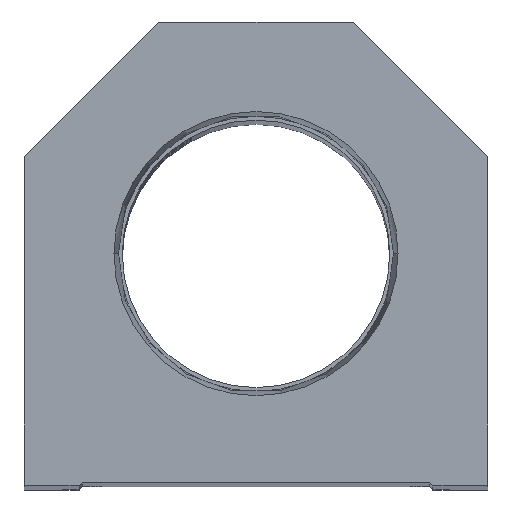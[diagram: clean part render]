
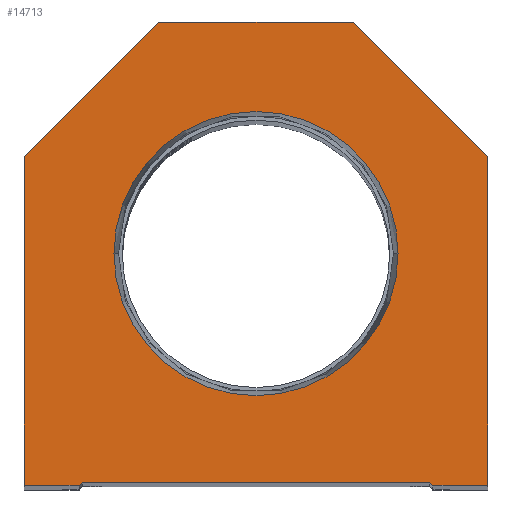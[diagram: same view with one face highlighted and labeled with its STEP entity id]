
A CAD part, top view. The second image highlights one B-rep face of the part: STEP entity #14713.
In plain terms, the highlighted planar face has unit normal (0, 0, 1).
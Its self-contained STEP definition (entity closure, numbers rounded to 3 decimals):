
#17 = DIRECTION ( 'NONE',  ( 0., 1., 0. ) ) ;
#54 = CIRCLE ( 'NONE', #2592, 23.374 ) ;
#148 = EDGE_CURVE ( 'NONE', #5944, #13929, #9811, .T. ) ;
#304 = CARTESIAN_POINT ( 'NONE',  ( 28.6, 0.5, 0. ) ) ;
#433 = VERTEX_POINT ( 'NONE', #9486 ) ;
#541 = LINE ( 'NONE', #15951, #18617 ) ;
#635 = DIRECTION ( 'NONE',  ( 0., -1., 0. ) ) ;
#769 = DIRECTION ( 'NONE',  ( -0.707, -0.707, 0. ) ) ;
#888 = CARTESIAN_POINT ( 'NONE',  ( -28.6, 0.5, 0. ) ) ;
#944 = CARTESIAN_POINT ( 'NONE',  ( -28.6, 0., 0. ) ) ;
#1747 = AXIS2_PLACEMENT_3D ( 'NONE', #3551, #10825, #15593 ) ;
#1782 = VECTOR ( 'NONE', #14135, 1000. ) ;
#2142 = LINE ( 'NONE', #6600, #11290 ) ;
#2444 = CARTESIAN_POINT ( 'NONE',  ( 23.374, 38.1, 0. ) ) ;
#2499 = EDGE_CURVE ( 'NONE', #15094, #433, #10286, .T. ) ;
#2592 = AXIS2_PLACEMENT_3D ( 'NONE', #13172, #17621, #14841 ) ;
#2712 = CARTESIAN_POINT ( 'NONE',  ( -29.1, 0., 0. ) ) ;
#2980 = CARTESIAN_POINT ( 'NONE',  ( -38.1, 0., 0. ) ) ;
#3006 = LINE ( 'NONE', #13657, #13051 ) ;
#3330 = EDGE_LOOP ( 'NONE', ( #16854, #3382 ) ) ;
#3382 = ORIENTED_EDGE ( 'NONE', *, *, #17074, .F. ) ;
#3473 = LINE ( 'NONE', #11133, #13892 ) ;
#3551 = CARTESIAN_POINT ( 'NONE',  ( 0., 38.1, 0. ) ) ;
#4100 = CARTESIAN_POINT ( 'NONE',  ( 28.6, 0., 0. ) ) ;
#4644 = CARTESIAN_POINT ( 'NONE',  ( 38.1, 54.1, 0. ) ) ;
#4668 = VECTOR ( 'NONE', #19182, 1000. ) ;
#5195 = DIRECTION ( 'NONE',  ( -0.707, 0.707, 0. ) ) ;
#5325 = EDGE_CURVE ( 'NONE', #5528, #5944, #17990, .T. ) ;
#5528 = VERTEX_POINT ( 'NONE', #14230 ) ;
#5554 = DIRECTION ( 'NONE',  ( 0., 0., 1. ) ) ;
#5656 = PLANE ( 'NONE',  #19278 ) ;
#5944 = VERTEX_POINT ( 'NONE', #9622 ) ;
#6066 = VECTOR ( 'NONE', #16705, 1000. ) ;
#6600 = CARTESIAN_POINT ( 'NONE',  ( 38.1, 54.1, 0. ) ) ;
#6666 = DIRECTION ( 'NONE',  ( 0.707, 0.707, 0. ) ) ;
#6685 = CARTESIAN_POINT ( 'NONE',  ( 14.55, 14.55, 0. ) ) ;
#7035 = VECTOR ( 'NONE', #769, 1000. ) ;
#7091 = VERTEX_POINT ( 'NONE', #4644 ) ;
#7111 = VERTEX_POINT ( 'NONE', #2980 ) ;
#7149 = FACE_OUTER_BOUND ( 'NONE', #7730, .T. ) ;
#7475 = CARTESIAN_POINT ( 'NONE',  ( 16., 76.2, 0. ) ) ;
#7529 = EDGE_CURVE ( 'NONE', #7091, #5528, #2142, .T. ) ;
#7546 = ORIENTED_EDGE ( 'NONE', *, *, #16021, .T. ) ;
#7682 = EDGE_CURVE ( 'NONE', #15359, #18532, #9468, .T. ) ;
#7730 = EDGE_LOOP ( 'NONE', ( #17650, #8850, #11614, #15673, #17628, #7546, #10260, #8110, #11831, #14148 ) ) ;
#7759 = LINE ( 'NONE', #10645, #6066 ) ;
#8110 = ORIENTED_EDGE ( 'NONE', *, *, #5325, .T. ) ;
#8850 = ORIENTED_EDGE ( 'NONE', *, *, #13762, .T. ) ;
#8893 = DIRECTION ( 'NONE',  ( 1., 0., 0. ) ) ;
#9468 = LINE ( 'NONE', #6685, #1782 ) ;
#9474 = EDGE_CURVE ( 'NONE', #18532, #15605, #18105, .T. ) ;
#9486 = CARTESIAN_POINT ( 'NONE',  ( -23.374, 38.1, 0. ) ) ;
#9622 = CARTESIAN_POINT ( 'NONE',  ( -16., 76.2, 0. ) ) ;
#9811 = LINE ( 'NONE', #11419, #7035 ) ;
#10260 = ORIENTED_EDGE ( 'NONE', *, *, #7529, .T. ) ;
#10286 = CIRCLE ( 'NONE', #1747, 23.374 ) ;
#10645 = CARTESIAN_POINT ( 'NONE',  ( -28.6, 0.5, 0. ) ) ;
#10825 = DIRECTION ( 'NONE',  ( 0., 0., 1. ) ) ;
#11133 = CARTESIAN_POINT ( 'NONE',  ( -14.55, 14.55, 0. ) ) ;
#11290 = VECTOR ( 'NONE', #5195, 1000. ) ;
#11419 = CARTESIAN_POINT ( 'NONE',  ( -38.1, 54.1, 0. ) ) ;
#11614 = ORIENTED_EDGE ( 'NONE', *, *, #18012, .T. ) ;
#11831 = ORIENTED_EDGE ( 'NONE', *, *, #148, .T. ) ;
#12377 = EDGE_CURVE ( 'NONE', #13929, #7111, #541, .T. ) ;
#12697 = LINE ( 'NONE', #944, #16844 ) ;
#12954 = DIRECTION ( 'NONE',  ( 1., 0., 0. ) ) ;
#13051 = VECTOR ( 'NONE', #17, 1000. ) ;
#13172 = CARTESIAN_POINT ( 'NONE',  ( 0., 38.1, 0. ) ) ;
#13314 = VERTEX_POINT ( 'NONE', #2712 ) ;
#13657 = CARTESIAN_POINT ( 'NONE',  ( 38.1, 0., 0. ) ) ;
#13762 = EDGE_CURVE ( 'NONE', #13314, #14751, #3473, .T. ) ;
#13892 = VECTOR ( 'NONE', #6666, 1000. ) ;
#13929 = VERTEX_POINT ( 'NONE', #19349 ) ;
#14135 = DIRECTION ( 'NONE',  ( 0.707, -0.707, 0. ) ) ;
#14148 = ORIENTED_EDGE ( 'NONE', *, *, #12377, .T. ) ;
#14230 = CARTESIAN_POINT ( 'NONE',  ( 16., 76.2, 0. ) ) ;
#14247 = CARTESIAN_POINT ( 'NONE',  ( 29.1, 0., 0. ) ) ;
#14545 = DIRECTION ( 'NONE',  ( 1., 0., 0. ) ) ;
#14713 = ADVANCED_FACE ( 'NONE', ( #16107, #7149 ), #5656, .T. ) ;
#14751 = VERTEX_POINT ( 'NONE', #888 ) ;
#14841 = DIRECTION ( 'NONE',  ( 1., 0., 0. ) ) ;
#15094 = VERTEX_POINT ( 'NONE', #2444 ) ;
#15359 = VERTEX_POINT ( 'NONE', #304 ) ;
#15593 = DIRECTION ( 'NONE',  ( 1., 0., 0. ) ) ;
#15605 = VERTEX_POINT ( 'NONE', #17088 ) ;
#15673 = ORIENTED_EDGE ( 'NONE', *, *, #7682, .T. ) ;
#15951 = CARTESIAN_POINT ( 'NONE',  ( -38.1, 0., 0. ) ) ;
#16021 = EDGE_CURVE ( 'NONE', #15605, #7091, #3006, .T. ) ;
#16107 = FACE_BOUND ( 'NONE', #3330, .T. ) ;
#16705 = DIRECTION ( 'NONE',  ( 1., 0., 0. ) ) ;
#16844 = VECTOR ( 'NONE', #14545, 1000. ) ;
#16854 = ORIENTED_EDGE ( 'NONE', *, *, #2499, .F. ) ;
#17074 = EDGE_CURVE ( 'NONE', #433, #15094, #54, .T. ) ;
#17088 = CARTESIAN_POINT ( 'NONE',  ( 38.1, 0., 0. ) ) ;
#17504 = CARTESIAN_POINT ( 'NONE',  ( 0., 0., 0. ) ) ;
#17613 = EDGE_CURVE ( 'NONE', #7111, #13314, #12697, .T. ) ;
#17621 = DIRECTION ( 'NONE',  ( 0., 0., 1. ) ) ;
#17628 = ORIENTED_EDGE ( 'NONE', *, *, #9474, .T. ) ;
#17650 = ORIENTED_EDGE ( 'NONE', *, *, #17613, .T. ) ;
#17990 = LINE ( 'NONE', #7475, #4668 ) ;
#18012 = EDGE_CURVE ( 'NONE', #14751, #15359, #7759, .T. ) ;
#18105 = LINE ( 'NONE', #4100, #18273 ) ;
#18273 = VECTOR ( 'NONE', #8893, 1000. ) ;
#18532 = VERTEX_POINT ( 'NONE', #14247 ) ;
#18617 = VECTOR ( 'NONE', #635, 1000. ) ;
#19182 = DIRECTION ( 'NONE',  ( -1., 0., 0. ) ) ;
#19278 = AXIS2_PLACEMENT_3D ( 'NONE', #17504, #5554, #12954 ) ;
#19349 = CARTESIAN_POINT ( 'NONE',  ( -38.1, 54.1, 0. ) ) ;
